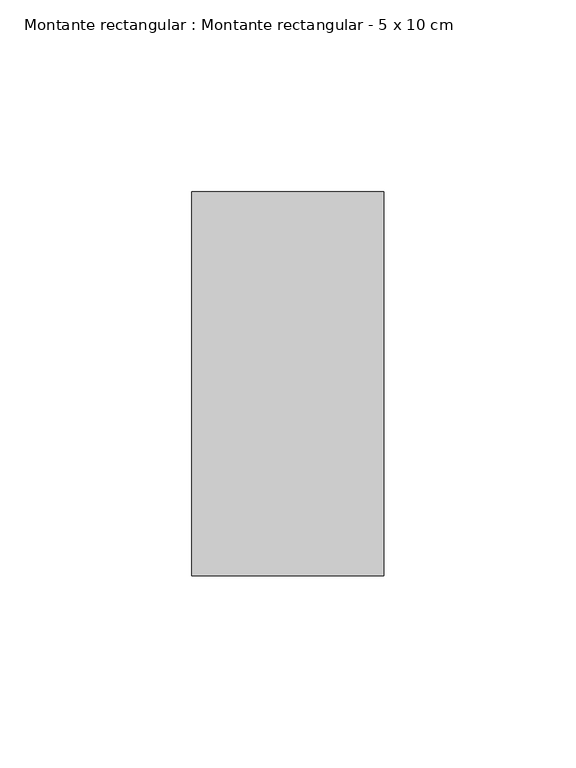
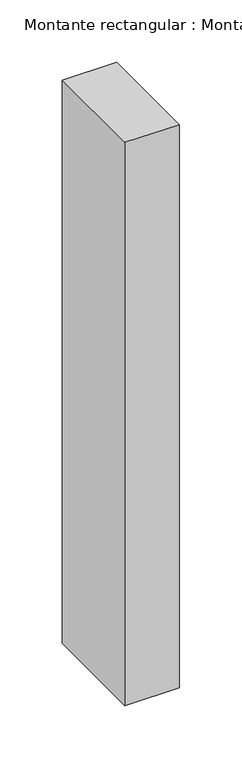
"""IFC4 building model written with IfcOpenShell, lengths in millimetres: member geometry, Montante rectangular : Montante rectangular - 5 x 10 cm."""

import ifcopenshell
import ifcopenshell.guid

model = None  # the IFC model being written
_history = None  # IfcOwnerHistory: only IFC2X3 demands one
_inside = {}  # id of a spatial element -> (the spatial element, [elements in it])
_under = {}  # id of a project, library or spatial element -> (it, [spatial elements below it])
_declared = {}  # id of a project -> (the project, [libraries it declares])
_typed = {}  # id of a type object -> (the type object, [elements of that type])
_made_of = {}  # id of a material, layer set ... -> (it, [elements and type objects made of it])


def new_model(schema):
    """Start an empty IFC model of exactly this schema.

    Asked for "IFC4X3", IfcOpenShell would pick the latest addendum, in which some entities
    have other attributes; the version numbers below select the first issue.
    IFC2X3 requires an IfcOwnerHistory on every rooted entity: one is made here for all.
    """
    global model, _history
    if schema == "IFC4X3":
        model = ifcopenshell.file(schema_version=(4, 3, 0, 0))
    else:
        model = ifcopenshell.file(schema=schema)
    _inside.clear()
    _under.clear()
    _declared.clear()
    _typed.clear()
    _made_of.clear()
    _history = None
    if model.schema == "IFC2X3":
        org = make("IfcOrganization", Name="unknown")
        user = make(
            "IfcPersonAndOrganization",
            ThePerson=make("IfcPerson", FamilyName="unknown"),
            TheOrganization=org,
        )
        app = make(
            "IfcApplication",
            ApplicationDeveloper=org,
            Version="unknown",
            ApplicationFullName="unknown",
            ApplicationIdentifier="unknown",
        )
        _history = make(
            "IfcOwnerHistory",
            OwningUser=user,
            OwningApplication=app,
            ChangeAction="ADDED",
            CreationDate=0,
        )
    return model


def make(cls, **values):
    """One entity of the class cls with the attributes given. An attribute that is None is left unset."""
    return model.create_entity(
        cls, **{name: value for name, value in values.items() if value is not None}
    )


def rooted(cls, **values):
    """An entity with a GlobalId (a new one), such as an element, a storey or a relation."""
    return make(cls, GlobalId=ifcopenshell.guid.new(), OwnerHistory=_history, **values)


def si_unit(unit_type, name, prefix=None):
    """IfcSIUnit, for example si_unit("LENGTHUNIT", "METRE", prefix="MILLI")."""
    return make("IfcSIUnit", UnitType=unit_type, Prefix=prefix, Name=name)


def assignment(units):
    """IfcUnitAssignment: the units of a project."""
    return None if units is None else make("IfcUnitAssignment", Units=units)


def point(xyz):
    """IfcCartesianPoint."""
    return None if xyz is None else make("IfcCartesianPoint", Coordinates=xyz)


def direction(xyz):
    """IfcDirection."""
    return None if xyz is None else make("IfcDirection", DirectionRatios=xyz)


def frame(location, z_axis=None, x_axis=None):
    """IfcAxis2Placement3D, a coordinate frame: its origin and axes. An axis left out is left unset."""
    return make(
        "IfcAxis2Placement3D",
        Location=point(location),
        Axis=direction(z_axis),
        RefDirection=direction(x_axis),
    )


def origin():
    """The frame at (0, 0, 0) with its axes left unset."""
    return frame((0.0, 0.0, 0.0))


def place(relative_to, where):
    """IfcLocalPlacement: puts the frame where relative to a parent placement (None: the world)."""
    return make(
        "IfcLocalPlacement", PlacementRelTo=relative_to, RelativePlacement=where
    )


def context(
    kind, dimensions, precision=None, world=None, true_north=None, identifier=None
):
    """IfcGeometricRepresentationContext, for example the 3D "Model" context."""
    return make(
        "IfcGeometricRepresentationContext",
        ContextIdentifier=identifier,
        ContextType=kind,
        CoordinateSpaceDimension=dimensions,
        Precision=precision,
        WorldCoordinateSystem=world,
        TrueNorth=true_north,
    )


def project(units=None, contexts=None):
    """IfcProject with its units and contexts."""
    return rooted(
        "IfcProject",
        Name="project",
        RepresentationContexts=contexts,
        UnitsInContext=assignment(units),
    )


def spatial(cls, under=None, at=None, **own):
    """A site, building, storey or space (cls), placed at a placement, below another one or the project."""
    s = rooted(cls, ObjectPlacement=at, **own)
    if under is not None:
        _under.setdefault(under.id(), (under, []))[1].append(s)
    return s


def polyline(points):
    """IfcPolyline through the points."""
    return make("IfcPolyline", Points=[point(p) for p in points])


def outline(outer, holes=None, kind="AREA"):
    """IfcArbitraryClosedProfileDef: a profile drawn as a closed curve; with holes, ...WithVoids."""
    if holes is None:
        return make("IfcArbitraryClosedProfileDef", ProfileType=kind, OuterCurve=outer)
    return make(
        "IfcArbitraryProfileDefWithVoids",
        ProfileType=kind,
        OuterCurve=outer,
        InnerCurves=holes,
    )


def extrude(swept, where, along, depth):
    """IfcExtrudedAreaSolid: the profile swept, set in the frame where, extruded along a direction by depth."""
    return make(
        "IfcExtrudedAreaSolid",
        SweptArea=swept,
        Position=where,
        ExtrudedDirection=direction(along),
        Depth=depth,
    )


def shape(context_of_items, identifier, shape_type, items):
    """IfcShapeRepresentation: the items that make up one representation, for example the "Body"."""
    return make(
        "IfcShapeRepresentation",
        ContextOfItems=context_of_items,
        RepresentationIdentifier=identifier,
        RepresentationType=shape_type,
        Items=items,
    )


def source(mapping_origin, context_of_items, identifier, shape_type, items):
    """IfcRepresentationMap: a shape defined once, which mapped items show again and again."""
    return make(
        "IfcRepresentationMap",
        MappingOrigin=mapping_origin,
        MappedRepresentation=shape(context_of_items, identifier, shape_type, items),
    )


def transform(
    local_origin,
    x_axis=None,
    y_axis=None,
    z_axis=None,
    scale=None,
    scale2=None,
    scale3=None,
    uniform=True,
):
    """IfcCartesianTransformationOperator3D, or its non-uniform kind. x_axis, y_axis, z_axis: its Axis1, 2, 3."""
    if uniform:
        return make(
            "IfcCartesianTransformationOperator3D",
            Axis1=direction(x_axis),
            Axis2=direction(y_axis),
            LocalOrigin=point(local_origin),
            Scale=scale,
            Axis3=direction(z_axis),
        )
    return make(
        "IfcCartesianTransformationOperator3DnonUniform",
        Axis1=direction(x_axis),
        Axis2=direction(y_axis),
        LocalOrigin=point(local_origin),
        Scale=scale,
        Axis3=direction(z_axis),
        Scale2=scale2,
        Scale3=scale3,
    )


def mapped(mapping_source, mapping_target):
    """IfcMappedItem: shows the shape of a source again, moved by a transform."""
    return make(
        "IfcMappedItem", MappingSource=mapping_source, MappingTarget=mapping_target
    )


def made_of(thing, what):
    """Note that an element or type object is made of a material, layer set ...; save() writes the relation."""
    if what is not None:
        _made_of.setdefault(what.id(), (what, []))[1].append(thing)
    return thing


def element(
    cls,
    number,
    at=None,
    inside=None,
    cuts=None,
    type_object=None,
    material=None,
    context=None,
    identifier="Body",
    shape_type=None,
    held_by="IfcProductDefinitionShape",
    body=None,
    shapes=None,
    **own,
):
    """One element of the class cls, such as IfcWall. Its Tag is "e" and its number.

    at: its placement. inside: the storey or other place that contains it. cuts: it is an
    opening in that element (IfcRelVoidsElement). A single representation is given by context,
    identifier, shape_type and body (its items); several are given by shapes. held_by: the class
    of the entity that holds the representations. save() writes the other relations.
    """
    e = rooted(cls, Tag="e%d" % number, ObjectPlacement=at, **own)
    if body is not None:
        shapes = [shape(context, identifier, shape_type, body)]
    if shapes is not None:
        e.Representation = make(held_by, Representations=shapes)
    if inside is not None:
        _inside.setdefault(inside.id(), (inside, []))[1].append(e)
    if cuts is not None:
        rooted(
            "IfcRelVoidsElement", RelatingBuildingElement=cuts, RelatedOpeningElement=e
        )
    if type_object is not None:
        _typed.setdefault(type_object.id(), (type_object, []))[1].append(e)
    return made_of(e, material)


def aggregate(whole, parts):
    """IfcRelAggregates: a whole, such as a stair, and the parts it consists of."""
    return rooted("IfcRelAggregates", RelatingObject=whole, RelatedObjects=parts)


def save(model, path):
    """Write the relations noted so far, then the file.

    IfcRelAggregates (storeys below a building ...), IfcRelContainedInSpatialStructure (elements
    in a storey), IfcRelDefinesByType, IfcRelAssociatesMaterial and IfcRelDeclares: one each for
    every whole, place, type object, material and project.
    """
    for whole, parts in _under.values():
        aggregate(whole, parts)
    for where, things in _inside.values():
        rooted(
            "IfcRelContainedInSpatialStructure",
            RelatedElements=things,
            RelatingStructure=where,
        )
    for kind, things in _typed.values():
        rooted("IfcRelDefinesByType", RelatedObjects=things, RelatingType=kind)
    for what, things in _made_of.values():
        rooted("IfcRelAssociatesMaterial", RelatedObjects=things, RelatingMaterial=what)
    for by, libraries in _declared.values():
        rooted("IfcRelDeclares", RelatingContext=by, RelatedDefinitions=libraries)
    model.write(path)


def montante_rectangular_montante_rectangular_5_x_10_cm_aa8766cf(model_context):
    return source(origin(), model_context, "Body", "SweptSolid", [
        extrude(outline(polyline([(25.0, 50.0), (25.0, -50.0), (-25.0, -50.0), (-25.0, 50.0), (25.0, 50.0)])), frame((0.0, 0.0, -550.0), z_axis=(0.0, 0.0, 1.0), x_axis=(1.0, 0.0, 0.0)), (0.0, 0.0, 1.0), 550.0),
    ])


if __name__ == "__main__":
    model = new_model("IFC4")
    model_context = context("Model", 3, world=origin())
    ifc_project = project(units=[si_unit("LENGTHUNIT", "METRE", prefix="MILLI")], contexts=[model_context])
    site = spatial("IfcSite", under=ifc_project)
    building = spatial("IfcBuilding", under=site)
    placement = place(None, origin())
    montante_rectangular_montante_rectangular_5_x_10_cm_shape = montante_rectangular_montante_rectangular_5_x_10_cm_aa8766cf(model_context)
    element("IfcMember", 1, ObjectType="Montante rectangular : Montante rectangular - 5 x 10 cm", at=placement, inside=building, context=model_context, shape_type="MappedRepresentation", body=[
        mapped(montante_rectangular_montante_rectangular_5_x_10_cm_shape, transform((0.0, 0.0, 0.0), x_axis=(1.0, 0.0, 0.0), y_axis=(0.0, 1.0, 0.0), z_axis=(0.0, 0.0, 1.0))),
    ])
    save(model, "model.ifc")
